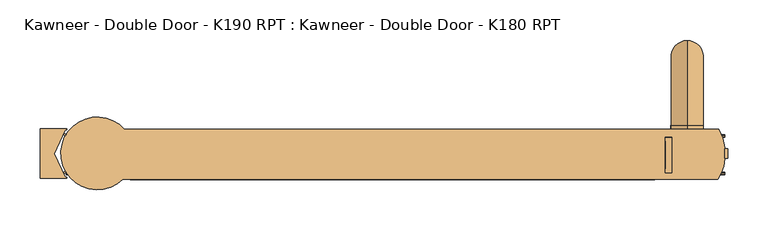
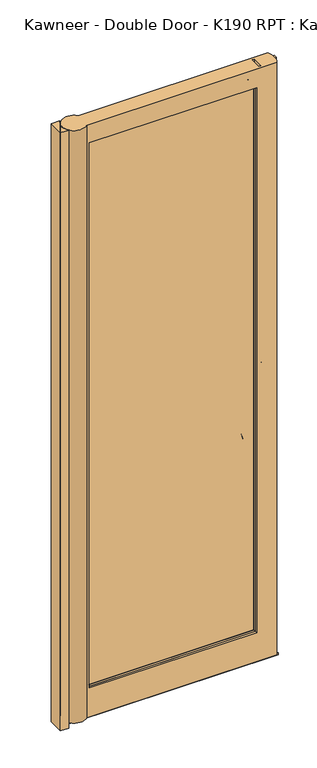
"""IFC4 building model written with IfcOpenShell, lengths in millimetres: door geometry, Kawneer - Double Door - K190 RPT : Kawneer - Double Door - K180 RPT."""

from ifc_helpers import new_model, si_unit, point, frame, frame_2d, origin, origin_with_axes, place, context, project, spatial, polyline, circle_curve, ellipse_curve, trimmed, segment, composite_curve, outline, extrude, faceted_brep, source, transform, mapped, element, save
from ifc_brep_helpers import plane_surface, cylinder_surface, revolved_surface, advanced_brep


def kawneer_double_door_k190_rpt_kawneer_double_door_k180_rpt_7c3ea43a(model_context):
    return source(origin(), model_context, "Body", "SolidModel", [
        advanced_brep(
        [(-50.05, 167.3528137, 910.0), (-50.05, 62.5, 805.1471863), (-50.05, 62.5, 845.1471863), (-50.05, 127.3528137, 910.0), (-50.05, 127.3528137, 1000.0), (-50.05, 167.3528137, 1000.0), (-50.05, 127.3528137, 1090.0), (-50.05, 167.3528137, 1090.0), (-50.05, 62.5, 1194.8528137), (-50.05, 62.5, 1154.8528137), (-50.05, 57.5, 805.1471863), (-50.05, 57.5, 845.1471863), (-50.05, 57.5, 1154.8528137), (-50.05, 57.5, 1194.8528137)],
        [
            (0, 1, circle_curve(frame((-50.05, 62.5, 910.0), z_axis=(-1.0, 0.0, 0.0), x_axis=(0.0, 0.0, -1.0)), 104.8528137)),
            (1, 2, circle_curve(frame((-50.05, 62.5, 825.1471863), z_axis=(0.0, 1.0, 0.0), x_axis=(0.0, 0.0, -1.0)), 20.0)),
            (2, 3, circle_curve(frame((-50.05, 62.5, 910.0), z_axis=(1.0, 0.0, 0.0), x_axis=(0.0, 0.0, -1.0)), 64.8528137)),
            (3, 0, circle_curve(frame((-50.05, 147.3528137, 910.0), z_axis=(0.0, 0.0, -1.0), x_axis=(0.0, 1.0, 0.0)), 20.0)),
            (2, 1, circle_curve(frame((-50.05, 62.5, 825.1471863), z_axis=(0.0, 1.0, 0.0), x_axis=(0.0, 0.0, -1.0)), 20.0)),
            (0, 3, circle_curve(frame((-50.05, 147.3528137, 910.0), z_axis=(0.0, 0.0, -1.0), x_axis=(0.0, 1.0, 0.0)), 20.0)),
            (3, 4),
            (4, 5, circle_curve(frame((-50.05, 147.3528137, 1000.0), z_axis=(0.0, 0.0, -1.0), x_axis=(0.0, 1.0, 0.0)), 20.0)),
            (5, 0),
            (5, 4, circle_curve(frame((-50.05, 147.3528137, 1000.0), z_axis=(0.0, 0.0, -1.0), x_axis=(0.0, 1.0, 0.0)), 20.0)),
            (4, 6),
            (6, 7, circle_curve(frame((-50.05, 147.3528137, 1090.0), z_axis=(0.0, 0.0, -1.0), x_axis=(0.0, 1.0, 0.0)), 20.0)),
            (7, 5),
            (7, 6, circle_curve(frame((-50.05, 147.3528137, 1090.0), z_axis=(0.0, 0.0, -1.0), x_axis=(0.0, 1.0, 0.0)), 20.0)),
            (8, 7, circle_curve(frame((-50.05, 62.5, 1090.0), z_axis=(-1.0, 0.0, 0.0), x_axis=(0.0, 1.0, 0.0)), 104.8528137)),
            (6, 9, circle_curve(frame((-50.05, 62.5, 1090.0), z_axis=(1.0, 0.0, 0.0), x_axis=(0.0, 1.0, 0.0)), 64.8528137)),
            (9, 8, circle_curve(frame((-50.05, 62.5, 1174.8528137), z_axis=(0.0, 1.0, 0.0), x_axis=(0.0, 0.0, 1.0)), 20.0)),
            (8, 9, circle_curve(frame((-50.05, 62.5, 1174.8528137), z_axis=(0.0, 1.0, 0.0), x_axis=(0.0, 0.0, 1.0)), 20.0)),
            (10, 11, circle_curve(frame((-50.05, 57.5, 825.1471863), z_axis=(0.0, 1.0, 0.0), x_axis=(0.0, 0.0, -1.0)), 20.0)),
            (11, 2),
            (1, 10),
            (11, 10, circle_curve(frame((-50.05, 57.5, 825.1471863), z_axis=(0.0, 1.0, 0.0), x_axis=(0.0, 0.0, -1.0)), 20.0)),
            (9, 12),
            (12, 13, circle_curve(frame((-50.05, 57.5, 1174.8528137), z_axis=(0.0, 1.0, 0.0), x_axis=(0.0, 0.0, 1.0)), 20.0)),
            (13, 8),
            (13, 12, circle_curve(frame((-50.05, 57.5, 1174.8528137), z_axis=(0.0, 1.0, 0.0), x_axis=(0.0, 0.0, 1.0)), 20.0)),
        ],
        [
            revolved_surface(trimmed(ellipse_curve(frame((-50.05, 62.5, 825.1471863), z_axis=(0.0, -1.0, 0.0), x_axis=(0.0, 0.0, -1.0)), 20.0, 20.0), [point((-50.05, 62.5, 845.1471863))], [point((-50.05, 62.5, 805.1471863))], True, "CARTESIAN"), (-50.05, 62.5, 910.0), (1.0, 0.0, 0.0)),
            revolved_surface(trimmed(ellipse_curve(frame((-50.05, 62.5, 825.1471863), z_axis=(0.0, -1.0, 0.0), x_axis=(0.0, 0.0, -1.0)), 20.0, 20.0), [point((-50.05, 62.5, 805.1471863))], [point((-50.05, 62.5, 845.1471863))], True, "CARTESIAN"), (-50.05, 62.5, 910.0), (1.0, 0.0, 0.0)),
            cylinder_surface(frame((-50.05, 147.3528137, 910.0), z_axis=(0.0, 0.0, -1.0), x_axis=(0.0, 1.0, 0.0)), 20.0),
            cylinder_surface(frame((-50.05, 147.3528137, 1000.0), z_axis=(0.0, 0.0, -1.0), x_axis=(0.0, 1.0, 0.0)), 20.0),
            revolved_surface(trimmed(ellipse_curve(frame((-50.05, 147.3528137, 1090.0), z_axis=(0.0, 0.0, -1.0), x_axis=(0.0, 1.0, 0.0)), 20.0, 20.0), [point((-50.05, 127.3528137, 1090.0))], [point((-50.05, 167.3528137, 1090.0))], True, "CARTESIAN"), (-50.05, 62.5, 1090.0), (1.0, 0.0, 0.0)),
            revolved_surface(trimmed(ellipse_curve(frame((-50.05, 147.3528137, 1090.0), z_axis=(0.0, 0.0, -1.0), x_axis=(0.0, 1.0, 0.0)), 20.0, 20.0), [point((-50.05, 167.3528137, 1090.0))], [point((-50.05, 127.3528137, 1090.0))], True, "CARTESIAN"), (-50.05, 62.5, 1090.0), (1.0, 0.0, 0.0)),
            cylinder_surface(frame((-50.05, 57.5, 825.1471863), z_axis=(0.0, -1.0, 0.0), x_axis=(0.0, 0.0, -1.0)), 20.0),
            cylinder_surface(frame((-50.05, 62.5, 1174.8528137), z_axis=(0.0, 1.0, 0.0), x_axis=(0.0, 0.0, 1.0)), 20.0),
            plane_surface(frame((-50.05, 57.5, 825.1471863), z_axis=(0.0, -1.0, 0.0), x_axis=(1.0, 0.0, 0.0))),
            plane_surface(frame((-50.05, 57.5, 1174.8528137), z_axis=(0.0, -1.0, 0.0), x_axis=(1.0, 0.0, 0.0))),
        ],
        [
            (0, [[1, 2, 3, 4]]),
            (1, [[-3, 5, -1, 6]]),
            (2, [[-4, 7, 8, 9]]),
            (2, [[-6, -9, 10, -7]]),
            (3, [[-8, 11, 12, 13]]),
            (3, [[-10, -13, 14, -11]]),
            (4, [[15, -12, 16, 17]]),
            (5, [[-16, -14, -15, 18]]),
            (6, [[19, 20, -2, 21]]),
            (6, [[22, -21, -5, -20]]),
            (7, [[-17, 23, 24, 25]]),
            (7, [[-18, -25, 26, -23]]),
            (8, [[-19, -22]]),
            (9, [[-26, -24]]),
        ],
    ),
        extrude(outline(polyline([(51.1993192, 12.7), (48.3010676, 12.7), (48.7760702, 19.7), (50.7240537, 19.7), (51.1993192, 12.7)])), frame((-817.9468278, 0.0, 0.0), z_axis=(1.0, 0.0, 0.0), x_axis=(0.0, 1.0, 0.0)), (0.0, 0.0, 1.0), 814.7159948),
        extrude(outline(polyline([(1.8010676, 12.7), (2.2760702, 19.7), (4.2240537, 19.7), (4.6993192, 12.7), (1.8010676, 12.7)])), frame((-817.9468278, 0.0, 0.0), z_axis=(1.0, 0.0, 0.0), x_axis=(0.0, 1.0, 0.0)), (0.0, 0.0, 1.0), 814.7159948),
        extrude(outline(polyline([(0.0, 33.6207879), (0.0, 21.3792121), (-3.230833, 21.3792121), (-3.230833, 33.6207879), (0.0, 33.6207879)])), frame((0.0, 0.0, 19.7), z_axis=(0.0, 0.0, 1.0), x_axis=(1.0, 0.0, 0.0)), (0.0, 0.0, 1.0), 2427.155),
        extrude(outline(composite_curve([segment(polyline([(-819.211122, 49.3105955), (-822.2348697, 50.9785545), (-821.4447986, 52.6728674), (-818.0117287, 51.347064)]), True, "CONTINUOUS"), segment(trimmed(circle_curve(frame_2d((-779.85, 27.5)), 45.0), [point((-818.0117287, 51.347064))], [point((-819.211122, 49.3105955))], True, "CARTESIAN"), True, "CONTINUOUS")], self_intersect=False)), frame((0.0, 0.0, 19.7), z_axis=(0.0, 0.0, 1.0), x_axis=(1.0, 0.0, 0.0)), (0.0, 0.0, 1.0), 2427.155),
        extrude(outline(composite_curve([segment(trimmed(circle_curve(frame_2d((-779.85, 27.5)), 45.0), [point((-819.1570135, 5.5920405))], [point((-817.9468278, 3.5493901))], True, "CARTESIAN"), True, "CONTINUOUS"), segment(polyline([(-817.9468278, 3.5493901), (-821.453251, 2.1952588), (-822.243322, 3.8895716), (-819.1570135, 5.5920405)]), True, "CONTINUOUS")], self_intersect=False)), frame((0.0, 0.0, 19.7), z_axis=(0.0, 0.0, 1.0), x_axis=(1.0, 0.0, 0.0)), (0.0, 0.0, 1.0), 2427.155),
        extrude(outline(polyline([(-77.15, 42.7), (-77.15, 33.7), (-752.05, 33.7), (-752.05, 42.7), (-77.15, 42.7)])), frame((0.0, 0.0, 124.6999998), z_axis=(0.0, 0.0, 1.0), x_axis=(1.0, 0.0, 0.0)), (0.0, 0.0, 1.0), 2258.7000002),
        extrude(outline(polyline([(-77.15, 17.7), (-77.15, 8.7), (-752.05, 8.7), (-752.05, 17.7), (-77.15, 17.7)])), frame((0.0, 0.0, 124.6999998), z_axis=(0.0, 0.0, 1.0), x_axis=(1.0, 0.0, 0.0)), (0.0, 0.0, 1.0), 2258.7000002),
        faceted_brep([(-740.05, 33.7, 136.7), (-740.05, 26.9, 136.7), (-89.15, 26.9, 136.7), (-89.15, 33.7, 136.7), (-752.05, 17.7, 124.7), (-752.05, 33.7, 124.7), (-77.15, 33.7, 124.7), (-77.15, 17.7, 124.7), (-740.05, 24.5, 136.7), (-740.05, 17.7, 136.7), (-89.15, 17.7, 136.7), (-89.15, 24.5, 136.7), (-741.25, 25.7, 135.5), (-87.95, 25.7, 135.5), (-89.15, 33.7, 2371.4), (-89.15, 26.9, 2371.4), (-740.05, 26.9, 2371.4), (-740.05, 33.7, 2371.4), (-77.15, 17.7, 2383.4), (-77.15, 33.7, 2383.4), (-752.05, 33.7, 2383.4), (-752.05, 17.7, 2383.4), (-89.15, 24.5, 2371.4), (-89.15, 17.7, 2371.4), (-740.05, 17.7, 2371.4), (-740.05, 24.5, 2371.4), (-87.95, 25.7, 2372.6), (-741.25, 25.7, 2372.6)], [[[0, 1, 2, 3]], [[4, 5, 6, 7]], [[8, 9, 10, 11]], [[12, 8, 11, 13]], [[1, 12, 13, 2]], [[14, 15, 16, 17]], [[18, 19, 20, 21]], [[22, 23, 24, 25]], [[26, 22, 25, 27]], [[15, 26, 27, 16]], [[17, 16, 1, 0]], [[21, 20, 5, 4]], [[25, 24, 9, 8]], [[27, 25, 8, 12]], [[16, 27, 12, 1]], [[3, 2, 15, 14]], [[19, 6, 5, 20], [14, 17, 0, 3]], [[7, 6, 19, 18]], [[18, 21, 4, 7], [23, 10, 9, 24]], [[11, 10, 23, 22]], [[13, 11, 22, 26]], [[2, 13, 26, 15]]]),
        advanced_brep(
        [(-734.2718271, 7.6752861, 142.4781729), (-739.5287229, 3.75, 137.2212771), (-89.6712771, 3.75, 137.2212771), (-94.9281729, 7.6752861, 142.4781729), (-734.3853911, 8.7, 142.3646089), (-94.8146089, 8.7, 142.3646089), (-749.3, 3.75, 127.45), (-749.3, 8.7, 127.45), (-79.9, 8.7, 127.45), (-79.9, 3.75, 127.45), (-94.9281729, 7.6752861, 2365.6218271), (-89.6712771, 3.75, 2370.8787229), (-739.5287229, 3.75, 2370.8787229), (-734.2718271, 7.6752861, 2365.6218271), (-94.8146089, 8.7, 2365.7353911), (-734.3853911, 8.7, 2365.7353911), (-79.9, 3.75, 2380.65), (-79.9, 8.7, 2380.65), (-749.3, 8.7, 2380.65), (-749.3, 3.75, 2380.65)],
        [
            (0, 1),
            (1, 2),
            (2, 3),
            (3, 0),
            (4, 0, ellipse_curve(frame((-734.6337687, 8.1538237, 142.1162313), z_axis=(0.7071067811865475, 0.0, -0.7071067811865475), x_axis=(-0.7071067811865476, 0.0, -0.7071067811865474)), 0.8485281, 0.6)),
            (3, 5, ellipse_curve(frame((-94.5662313, 8.1538237, 142.1162313), z_axis=(-0.7071067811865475, 0.0, -0.7071067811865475), x_axis=(-0.7071067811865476, 0.0, 0.7071067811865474)), 0.8485281, 0.6)),
            (5, 4),
            (6, 7),
            (7, 8),
            (8, 9),
            (9, 6),
            (10, 11),
            (11, 12),
            (12, 13),
            (13, 10),
            (14, 10, ellipse_curve(frame((-94.5662313, 8.1538237, 2365.9837687), z_axis=(-0.7071067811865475, 0.0, 0.7071067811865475), x_axis=(0.7071067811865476, 0.0, 0.7071067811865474)), 0.8485281, 0.6)),
            (13, 15, ellipse_curve(frame((-734.6337687, 8.1538237, 2365.9837687), z_axis=(0.7071067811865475, 0.0, 0.7071067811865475), x_axis=(0.7071067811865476, 0.0, -0.7071067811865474)), 0.8485281, 0.6)),
            (15, 14),
            (16, 17),
            (17, 18),
            (18, 19),
            (19, 16),
            (12, 1),
            (0, 13),
            (4, 15),
            (18, 7),
            (6, 19),
            (9, 16),
            (11, 2),
            (10, 3),
            (14, 5),
            (17, 8),
        ],
        [
            plane_surface(frame((-739.5287229, 3.75, 137.2212771), z_axis=(0.0, -0.8012701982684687, 0.5983026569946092), x_axis=(1.0, 0.0, 0.0))),
            cylinder_surface(frame((-738.85, 8.1538237, 142.1162313), z_axis=(-1.0, 0.0, 0.0), x_axis=(0.0, 0.0, 1.0)), 0.6),
            plane_surface(frame((-749.3, 8.7, 127.45), z_axis=(0.0, 0.0, -1.0), x_axis=(1.0, 0.0, 0.0))),
            plane_surface(frame((-89.6712771, 3.75, 2370.8787229), z_axis=(0.0, -0.8012701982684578, -0.5983026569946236), x_axis=(-1.0, 0.0, 0.0))),
            cylinder_surface(frame((-90.35, 8.1538237, 2365.9837687), z_axis=(1.0, 0.0, 0.0), x_axis=(0.0, 0.0, -1.0)), 0.6),
            plane_surface(frame((-79.9, 8.7, 2380.65), z_axis=(0.0, 0.0, 1.0), x_axis=(-1.0, 0.0, 0.0))),
            plane_surface(frame((-739.5287229, 3.75, 2370.8787229), z_axis=(0.5983026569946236, -0.8012701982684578, 0.0), x_axis=(0.0, 0.0, -1.0))),
            cylinder_surface(frame((-734.6337687, 8.1538237, 2370.2), z_axis=(0.0, 0.0, 1.0), x_axis=(1.0, 0.0, 0.0)), 0.6),
            plane_surface(frame((-749.3, 8.7, 2380.65), z_axis=(-1.0, 0.0, 0.0), x_axis=(0.0, 0.0, -1.0))),
            plane_surface(frame((-79.9, 3.75, 127.45), z_axis=(0.0, -1.0, 0.0), x_axis=(0.0, 0.0, 1.0))),
            plane_surface(frame((-89.6712771, 3.75, 137.2212771), z_axis=(-0.5983026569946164, -0.8012701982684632, 0.0), x_axis=(0.0, 0.0, 1.0))),
            cylinder_surface(frame((-94.5662313, 8.1538237, 137.9), z_axis=(0.0, 0.0, -1.0), x_axis=(-1.0, 0.0, 0.0)), 0.6),
            plane_surface(frame((-94.8146089, 8.7, 142.3646089), z_axis=(0.0, 1.0, 0.0), x_axis=(0.0, 0.0, 1.0))),
            plane_surface(frame((-79.9, 8.7, 127.45), z_axis=(1.0, 0.0, 0.0), x_axis=(0.0, 0.0, 1.0))),
        ],
        [
            (0, [[1, 2, 3, 4]]),
            (1, [[5, -4, 6, 7]]),
            (2, [[8, 9, 10, 11]]),
            (3, [[12, 13, 14, 15]]),
            (4, [[16, -15, 17, 18]]),
            (5, [[19, 20, 21, 22]]),
            (6, [[-14, 23, -1, 24]]),
            (7, [[-17, -24, -5, 25]]),
            (8, [[-21, 26, -8, 27]]),
            (9, [[-22, -27, -11, 28], [29, -2, -23, -13]]),
            (10, [[-3, -29, -12, 30]]),
            (11, [[-6, -30, -16, 31]]),
            (12, [[32, -9, -26, -20], [-18, -25, -7, -31]]),
            (13, [[-10, -32, -19, -28]]),
        ],
    ),
        advanced_brep(
        [(-749.3, 42.7, 127.45), (-749.3, 47.65, 127.45), (-79.9, 47.65, 127.45), (-79.9, 42.7, 127.45), (-734.2718271, 43.7247139, 142.4781729), (-734.3853911, 42.7, 142.3646089), (-94.8146089, 42.7, 142.3646089), (-94.9281729, 43.7247139, 142.4781729), (-739.5287229, 47.65, 137.2212771), (-89.6712771, 47.65, 137.2212771), (-79.9, 42.7, 2380.65), (-79.9, 47.65, 2380.65), (-749.3, 47.65, 2380.65), (-749.3, 42.7, 2380.65), (-94.9281729, 43.7247139, 2365.6218271), (-94.8146089, 42.7, 2365.7353911), (-734.3853911, 42.7, 2365.7353911), (-734.2718271, 43.7247139, 2365.6218271), (-89.6712771, 47.65, 2370.8787229), (-739.5287229, 47.65, 2370.8787229)],
        [
            (0, 1),
            (1, 2),
            (2, 3),
            (3, 0),
            (4, 5, ellipse_curve(frame((-734.6337687, 43.2461763, 142.1162313), z_axis=(0.7071067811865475, 0.0, -0.7071067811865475), x_axis=(-0.7071067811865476, 0.0, -0.7071067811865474)), 0.8485281, 0.6)),
            (5, 6),
            (6, 7, ellipse_curve(frame((-94.5662313, 43.2461763, 142.1162313), z_axis=(-0.7071067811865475, 0.0, -0.7071067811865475), x_axis=(-0.7071067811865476, 0.0, 0.7071067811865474)), 0.8485281, 0.6)),
            (7, 4),
            (8, 4),
            (7, 9),
            (9, 8),
            (10, 11),
            (11, 12),
            (12, 13),
            (13, 10),
            (14, 15, ellipse_curve(frame((-94.5662313, 43.2461763, 2365.9837687), z_axis=(-0.7071067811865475, 0.0, 0.7071067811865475), x_axis=(0.7071067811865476, 0.0, 0.7071067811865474)), 0.8485281, 0.6)),
            (15, 16),
            (16, 17, ellipse_curve(frame((-734.6337687, 43.2461763, 2365.9837687), z_axis=(0.7071067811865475, 0.0, 0.7071067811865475), x_axis=(0.7071067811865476, 0.0, -0.7071067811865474)), 0.8485281, 0.6)),
            (17, 14),
            (18, 14),
            (17, 19),
            (19, 18),
            (12, 1),
            (0, 13),
            (16, 5),
            (4, 17),
            (8, 19),
            (2, 11),
            (10, 3),
            (15, 6),
            (14, 7),
            (18, 9),
        ],
        [
            plane_surface(frame((-749.3, 47.65, 127.45), z_axis=(0.0, 0.0, -1.0), x_axis=(1.0, 0.0, 0.0))),
            cylinder_surface(frame((-738.85, 43.2461763, 142.1162313), z_axis=(-1.0, 0.0, 0.0), x_axis=(0.0, 0.0, 1.0)), 0.6),
            plane_surface(frame((-734.2718271, 43.7247139, 142.4781729), z_axis=(0.0, 0.8012701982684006, 0.5983026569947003), x_axis=(1.0, 0.0, 0.0))),
            plane_surface(frame((-79.9, 47.65, 2380.65), z_axis=(0.0, 0.0, 1.0), x_axis=(-1.0, 0.0, 0.0))),
            cylinder_surface(frame((-90.35, 43.2461763, 2365.9837687), z_axis=(1.0, 0.0, 0.0), x_axis=(0.0, 0.0, -1.0)), 0.6),
            plane_surface(frame((-94.9281729, 43.7247139, 2365.6218271), z_axis=(0.0, 0.8012701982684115, -0.5983026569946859), x_axis=(-1.0, 0.0, 0.0))),
            plane_surface(frame((-749.3, 47.65, 2380.65), z_axis=(-1.0, 0.0, 0.0), x_axis=(0.0, 0.0, -1.0))),
            cylinder_surface(frame((-734.6337687, 43.2461763, 2370.2), z_axis=(0.0, 0.0, 1.0), x_axis=(1.0, 0.0, 0.0)), 0.6),
            plane_surface(frame((-734.2718271, 43.7247139, 2365.6218271), z_axis=(0.5983026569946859, 0.8012701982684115, 0.0), x_axis=(0.0, 0.0, -1.0))),
            plane_surface(frame((-79.9, 47.65, 127.45), z_axis=(1.0, 0.0, 0.0), x_axis=(0.0, 0.0, 1.0))),
            plane_surface(frame((-79.9, 42.7, 127.45), z_axis=(0.0, -1.0, 0.0), x_axis=(0.0, 0.0, 1.0))),
            cylinder_surface(frame((-94.5662313, 43.2461763, 137.9), z_axis=(0.0, 0.0, -1.0), x_axis=(-1.0, 0.0, 0.0)), 0.6),
            plane_surface(frame((-94.9281729, 43.7247139, 142.4781729), z_axis=(-0.5983026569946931, 0.8012701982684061, 0.0), x_axis=(0.0, 0.0, 1.0))),
            plane_surface(frame((-89.6712771, 47.65, 137.2212771), z_axis=(0.0, 1.0, 0.0), x_axis=(0.0, 0.0, 1.0))),
        ],
        [
            (0, [[1, 2, 3, 4]]),
            (1, [[5, 6, 7, 8]]),
            (2, [[9, -8, 10, 11]]),
            (3, [[12, 13, 14, 15]]),
            (4, [[16, 17, 18, 19]]),
            (5, [[20, -19, 21, 22]]),
            (6, [[-14, 23, -1, 24]]),
            (7, [[-18, 25, -5, 26]]),
            (8, [[-21, -26, -9, 27]]),
            (9, [[-3, 28, -12, 29]]),
            (10, [[-15, -24, -4, -29], [30, -6, -25, -17]]),
            (11, [[-7, -30, -16, 31]]),
            (12, [[-10, -31, -20, 32]]),
            (13, [[-28, -2, -23, -13], [-22, -27, -11, -32]]),
        ],
    ),
        extrude(outline(polyline([(-817.55, 58.2), (-817.55, 56.7), (-819.5669158, 56.7), (-833.2180725, 27.425), (-819.5669158, -1.85), (-817.55, -1.85), (-817.55, -3.35), (-850.05, -3.35), (-850.05, 58.2), (-817.55, 58.2)])), origin_with_axes(), (0.0, 0.0, 1.0), 2449.9932215),
        advanced_brep(
        [(-822.4481066, 12.9947833, 2446.855), (-748.1609246, -4.45, 2446.855), (-12.2881322, -4.45, 2446.855), (-3.230833, 20.7003265, 2446.855), (-3.230833, 34.2996735, 2446.855), (-11.0884758, 57.5, 2446.855), (-746.3089803, 57.5, 2446.855), (-77.15, 3.75, 2446.855), (-77.15, 47.65, 2446.855), (-68.95, 47.65, 2446.855), (-68.95, 3.75, 2446.855), (-822.4481066, 12.9947833, 19.7), (-746.3089803, 57.5, 19.7), (-11.0884758, 57.5, 19.7), (-3.230833, 34.2996735, 19.7), (-3.230833, 20.7003265, 19.7), (-12.2881322, -4.45, 19.7), (-748.1609246, -4.45, 19.7), (-738.85, -4.45, 137.9), (-738.85, -4.45, 2370.2), (-90.35, -4.45, 2370.2), (-90.35, -4.45, 137.9), (-738.85, 3.25, 2370.2), (-738.85, 3.25, 137.9), (-739.35, 3.75, 2370.7), (-739.35, 3.75, 137.4), (-77.15, 3.75, 2391.6), (-68.95, 3.75, 116.5), (-760.25, 3.75, 116.5), (-760.25, 3.75, 2391.6), (-89.85, 3.75, 137.4), (-89.85, 3.75, 2370.7), (-760.25, 47.65, 2391.6), (-760.25, 47.65, 116.5), (-77.15, 47.65, 2391.6), (-68.95, 47.65, 116.5), (-739.35, 47.65, 137.4), (-739.35, 47.65, 2370.7), (-89.85, 47.65, 2370.7), (-89.85, 47.65, 137.4), (-738.85, 48.15, 2370.2), (-738.85, 48.15, 137.9), (-738.85, 57.5, 2370.2), (-738.85, 57.5, 137.9), (-90.35, 57.5, 137.9), (-90.35, 57.5, 2370.2), (-90.35, 3.25, 2370.2), (-90.35, 48.15, 2370.2), (-90.35, 48.15, 137.9), (-90.35, 3.25, 137.9)],
        [
            (0, 1, circle_curve(frame((-779.85, 27.5, 2446.855), z_axis=(0.0, 0.0, 1.0), x_axis=(1.0, 0.0, 0.0)), 45.0)),
            (1, 2),
            (2, 3, circle_curve(frame((-62.7112651, 27.9147567, 2446.855), z_axis=(0.0, 0.0, 1.0), x_axis=(1.0, 0.0, 0.0)), 59.9163567)),
            (3, 4),
            (4, 5, circle_curve(frame((-62.7112651, 27.0852433, 2446.855), z_axis=(0.0, 0.0, 1.0), x_axis=(1.0, 0.0, 0.0)), 59.9163567)),
            (5, 6),
            (6, 0, circle_curve(frame((-779.85, 27.5, 2446.855), z_axis=(0.0, 0.0, 1.0), x_axis=(1.0, 0.0, 0.0)), 45.0)),
            (7, 8),
            (8, 9),
            (9, 10),
            (10, 7),
            (11, 12, circle_curve(frame((-779.85, 27.5, 19.7), z_axis=(0.0, 0.0, -1.0), x_axis=(1.0, 0.0, 0.0)), 45.0)),
            (12, 13),
            (13, 14, circle_curve(frame((-62.7112651, 27.0852433, 19.7), z_axis=(0.0, 0.0, -1.0), x_axis=(1.0, 0.0, 0.0)), 59.9163567)),
            (14, 15),
            (15, 16, circle_curve(frame((-62.7112651, 27.9147567, 19.7), z_axis=(0.0, 0.0, -1.0), x_axis=(1.0, 0.0, 0.0)), 59.9163567)),
            (16, 17),
            (17, 11, circle_curve(frame((-779.85, 27.5, 19.7), z_axis=(0.0, 0.0, -1.0), x_axis=(1.0, 0.0, 0.0)), 45.0)),
            (0, 11),
            (17, 1),
            (16, 2),
            (18, 19),
            (19, 20),
            (20, 21),
            (21, 18),
            (22, 19),
            (18, 23),
            (23, 22),
            (24, 22, ellipse_curve(frame((-739.35, 3.25, 2370.7), z_axis=(-0.7071067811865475, 0.0, -0.7071067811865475), x_axis=(-0.7071067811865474, 0.0, 0.7071067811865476)), 0.7071068, 0.5)),
            (23, 25, ellipse_curve(frame((-739.35, 3.25, 137.4), z_axis=(-0.7071067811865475, 0.0, 0.7071067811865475), x_axis=(0.7071067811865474, 0.0, 0.7071067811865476)), 0.7071068, 0.5)),
            (25, 24),
            (26, 7),
            (10, 27),
            (27, 28),
            (28, 29),
            (29, 26),
            (25, 30),
            (30, 31),
            (31, 24),
            (32, 29),
            (28, 33),
            (33, 32),
            (8, 34),
            (34, 32),
            (33, 35),
            (35, 9),
            (36, 37),
            (37, 38),
            (38, 39),
            (39, 36),
            (40, 37, ellipse_curve(frame((-739.35, 48.15, 2370.7), z_axis=(-0.7071067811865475, 0.0, -0.7071067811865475), x_axis=(-0.7071067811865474, 0.0, 0.7071067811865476)), 0.7071068, 0.5)),
            (36, 41, ellipse_curve(frame((-739.35, 48.15, 137.4), z_axis=(-0.7071067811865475, 0.0, 0.7071067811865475), x_axis=(0.7071067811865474, 0.0, 0.7071067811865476)), 0.7071068, 0.5)),
            (41, 40),
            (42, 40),
            (41, 43),
            (43, 42),
            (5, 13),
            (12, 6),
            (43, 44),
            (44, 45),
            (45, 42),
            (26, 34),
            (22, 46),
            (46, 20),
            (31, 46, ellipse_curve(frame((-89.85, 3.25, 2370.7), z_axis=(-0.7071067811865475, 0.0, 0.7071067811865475), x_axis=(0.7071067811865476, 0.0, 0.7071067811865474)), 0.7071068, 0.5)),
            (40, 47),
            (47, 38, ellipse_curve(frame((-89.85, 48.15, 2370.7), z_axis=(-0.7071067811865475, 0.0, 0.7071067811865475), x_axis=(0.7071067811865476, 0.0, 0.7071067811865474)), 0.7071068, 0.5)),
            (45, 47),
            (41, 48),
            (48, 44),
            (39, 48, ellipse_curve(frame((-89.85, 48.15, 137.4), z_axis=(-0.7071067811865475, 0.0, -0.7071067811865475), x_axis=(0.7071067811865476, 0.0, -0.7071067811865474)), 0.7071068, 0.5)),
            (27, 35),
            (23, 49),
            (49, 30, ellipse_curve(frame((-89.85, 3.25, 137.4), z_axis=(-0.7071067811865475, 0.0, -0.7071067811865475), x_axis=(0.7071067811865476, 0.0, -0.7071067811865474)), 0.7071068, 0.5)),
            (21, 49),
            (48, 47),
            (49, 46),
            (4, 14),
            (15, 3),
        ],
        [
            plane_surface(frame((-734.85, 27.5, 2446.855), z_axis=(0.0, 0.0, 1.0), x_axis=(0.0, 1.0, 0.0))),
            plane_surface(frame((-734.85, 27.5, 19.7), z_axis=(0.0, 0.0, -1.0), x_axis=(0.0, -1.0, 0.0))),
            cylinder_surface(frame((-779.85, 27.5, 19.7), z_axis=(0.0, 0.0, 1.0), x_axis=(1.0, 0.0, 0.0)), 45.0),
            plane_surface(frame((-748.1609246, -4.45, 2446.855), z_axis=(0.0, -1.0, 0.0), x_axis=(0.0, 0.0, -1.0))),
            plane_surface(frame((-738.85, -4.45, 2446.855), z_axis=(1.0, 0.0, 0.0), x_axis=(0.0, 0.0, -1.0))),
            cylinder_surface(frame((-739.35, 3.25, 19.7), z_axis=(0.0, 0.0, 1.0), x_axis=(1.0, 0.0, 0.0)), 0.5),
            plane_surface(frame((-739.35, 3.75, 2446.855), z_axis=(0.0, 1.0, 0.0), x_axis=(0.0, 0.0, -1.0))),
            plane_surface(frame((-760.25, 3.75, 2446.855), z_axis=(1.0, 0.0, 0.0), x_axis=(0.0, 0.0, -1.0))),
            plane_surface(frame((-760.25, 47.65, 2446.855), z_axis=(0.0, -1.0, 0.0), x_axis=(0.0, 0.0, -1.0))),
            cylinder_surface(frame((-739.35, 48.15, 19.7), z_axis=(0.0, 0.0, 1.0), x_axis=(1.0, 0.0, 0.0)), 0.5),
            plane_surface(frame((-738.85, 48.15, 2446.855), z_axis=(1.0, 0.0, 0.0), x_axis=(0.0, 0.0, -1.0))),
            plane_surface(frame((-738.85, 57.5, 2446.855), z_axis=(0.0, 1.0, 0.0), x_axis=(0.0, 0.0, -1.0))),
            plane_surface(frame((-77.15, 3.25, 2370.2), z_axis=(1.0, 0.0, 0.0), x_axis=(0.0, 1.0, 0.0))),
            plane_surface(frame((-77.15, -4.45, 2370.2), z_axis=(0.0, 0.0, -1.0), x_axis=(-1.0, 0.0, 0.0))),
            cylinder_surface(frame((-795.05, 3.25, 2370.7), z_axis=(1.0, 0.0, 0.0), x_axis=(0.0, 1.0, 0.0)), 0.5),
            plane_surface(frame((-77.15, 3.75, 2391.6), z_axis=(0.0, 0.0, -1.0), x_axis=(-1.0, 0.0, 0.0))),
            cylinder_surface(frame((-795.05, 48.15, 2370.7), z_axis=(1.0, 0.0, 0.0), x_axis=(0.0, 1.0, 0.0)), 0.5),
            plane_surface(frame((-77.15, 48.15, 2370.2), z_axis=(0.0, -3.4165326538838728e-12, -1.0), x_axis=(-1.0, 0.0, 0.0))),
            plane_surface(frame((-25.05, 57.5, 137.9), z_axis=(0.0, 0.0, 1.0), x_axis=(-1.0, 0.0, 0.0))),
            cylinder_surface(frame((-795.05, 48.15, 137.4), z_axis=(1.0, 0.0, 0.0), x_axis=(0.0, 1.0, 0.0)), 0.5),
            plane_surface(frame((-25.05, 47.65, 116.5), z_axis=(0.0, 0.0, 1.0), x_axis=(-1.0, 0.0, 0.0))),
            cylinder_surface(frame((-795.05, 3.25, 137.4), z_axis=(1.0, 0.0, 0.0), x_axis=(0.0, 1.0, 0.0)), 0.5),
            plane_surface(frame((-25.05, 3.25, 137.9), z_axis=(0.0, 0.0, 1.0), x_axis=(-1.0, 0.0, 0.0))),
            plane_surface(frame((-90.35, 57.5, 2446.855), z_axis=(-1.0, 0.0, 0.0), x_axis=(0.0, 0.0, -1.0))),
            cylinder_surface(frame((-89.85, 48.15, 19.7), z_axis=(0.0, 0.0, 1.0), x_axis=(1.0, 0.0, 0.0)), 0.5),
            plane_surface(frame((-68.95, 47.65, 2446.855), z_axis=(-1.0, 0.0, 0.0), x_axis=(0.0, 0.0, -1.0))),
            cylinder_surface(frame((-89.85, 3.25, 19.7), z_axis=(0.0, 0.0, 1.0), x_axis=(1.0, 0.0, 0.0)), 0.5),
            plane_surface(frame((-90.35, 3.25, 2446.855), z_axis=(-1.0, 0.0, 0.0), x_axis=(0.0, 0.0, -1.0))),
            cylinder_surface(frame((-62.7112651, 27.0852433, 19.7), z_axis=(0.0, 0.0, 1.0), x_axis=(1.0, 0.0, 0.0)), 59.9163567),
            cylinder_surface(frame((-62.7112651, 27.9147567, 19.7), z_axis=(0.0, 0.0, 1.0), x_axis=(1.0, 0.0, 0.0)), 59.9163567),
            plane_surface(frame((-3.230833, 20.7003265, 2446.855), z_axis=(1.0, 0.0, 0.0), x_axis=(0.0, 0.0, -1.0))),
        ],
        [
            (0, [[1, 2, 3, 4, 5, 6, 7], [8, 9, 10, 11]]),
            (1, [[12, 13, 14, 15, 16, 17, 18]]),
            (2, [[-1, 19, -18, 20]]),
            (3, [[-17, 21, -2, -20], [22, 23, 24, 25]]),
            (4, [[26, -22, 27, 28]]),
            (5, [[29, -28, 30, 31]]),
            (6, [[32, -11, 33, 34, 35, 36], [-31, 37, 38, 39]]),
            (7, [[40, -35, 41, 42]]),
            (8, [[-9, 43, 44, -42, 45, 46], [47, 48, 49, 50]]),
            (9, [[51, -47, 52, 53]]),
            (10, [[54, -53, 55, 56]]),
            (11, [[-6, 57, -13, 58], [-56, 59, 60, 61]]),
            (2, [[-7, -58, -12, -19]]),
            (12, [[62, -43, -8, -32]]),
            (13, [[-26, 63, 64, -23]]),
            (14, [[-29, -39, 65, -63]]),
            (15, [[-44, -62, -36, -40]]),
            (16, [[-51, 66, 67, -48]]),
            (17, [[-54, -61, 68, -66]]),
            (18, [[-55, 69, 70, -59]]),
            (19, [[-52, -50, 71, -69]]),
            (20, [[-45, -41, -34, 72]]),
            (21, [[-30, 73, 74, -37]]),
            (22, [[-27, -25, 75, -73]]),
            (23, [[-60, -70, 76, -68]]),
            (24, [[-49, -67, -76, -71]]),
            (25, [[-33, -10, -46, -72]]),
            (26, [[-38, -74, 77, -65]]),
            (27, [[-24, -64, -77, -75]]),
            (28, [[-5, 78, -14, -57]]),
            (29, [[-3, -21, -16, 79]]),
            (30, [[-4, -79, -15, -78]]),
        ],
    ),
    ])


if __name__ == "__main__":
    model = new_model("IFC4")
    model_context = context("Model", 3, world=origin())
    ifc_project = project(units=[si_unit("LENGTHUNIT", "METRE", prefix="MILLI")], contexts=[model_context])
    site = spatial("IfcSite", under=ifc_project)
    building = spatial("IfcBuilding", under=site)
    placement = place(None, origin())
    kawneer_double_door_k190_rpt_kawneer_double_door_k180_rpt_shape = kawneer_double_door_k190_rpt_kawneer_double_door_k180_rpt_7c3ea43a(model_context)
    element("IfcDoor", 1, ObjectType="Kawneer - Double Door - K190 RPT : Kawneer - Double Door - K180 RPT", at=placement, inside=building, context=model_context, shape_type="MappedRepresentation", body=[
        mapped(kawneer_double_door_k190_rpt_kawneer_double_door_k180_rpt_shape, transform((0.0, 0.0, 0.0), x_axis=(1.0, 0.0, 0.0), y_axis=(0.0, 1.0, 0.0), z_axis=(0.0, 0.0, 1.0))),
    ])
    save(model, "model.ifc")
